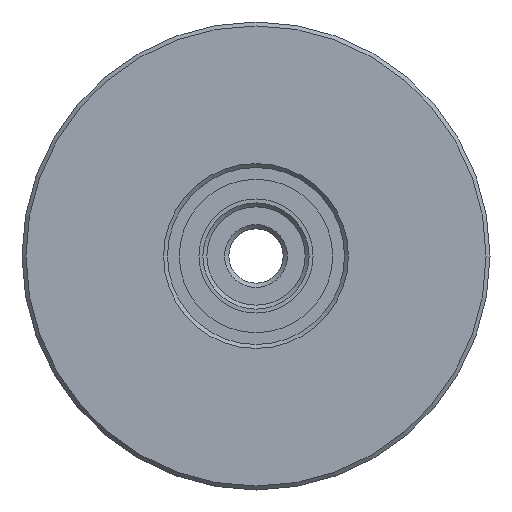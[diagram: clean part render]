
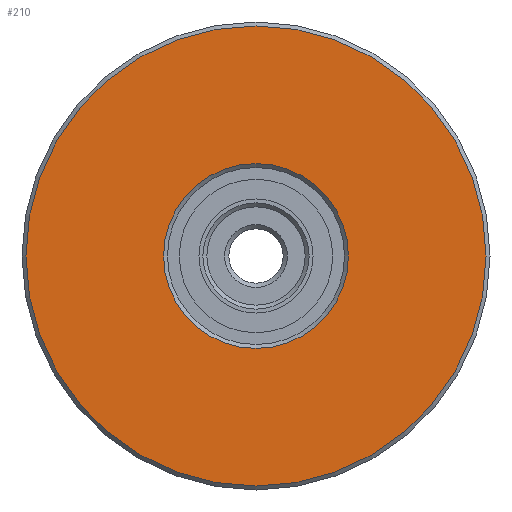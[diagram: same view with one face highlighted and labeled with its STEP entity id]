
A CAD part, left-side view. The second image highlights one B-rep face of the part: STEP entity #210.
In plain terms, the highlighted planar face has unit normal (-1, 0, 0) as drawn and (0, -1, 0) by its records, which use the part's own axes.
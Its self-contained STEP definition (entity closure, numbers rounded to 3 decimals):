
#210 = ADVANCED_FACE( '', ( #293, #294 ), #295, .T. );
#293 = FACE_OUTER_BOUND( '', #481, .T. );
#294 = FACE_BOUND( '', #482, .T. );
#295 = PLANE( '', #483 );
#481 = EDGE_LOOP( '', ( #676 ) );
#482 = EDGE_LOOP( '', ( #677 ) );
#483 = AXIS2_PLACEMENT_3D( '', #678, #679, #680 );
#676 = ORIENTED_EDGE( '', *, *, #1150, .T. );
#677 = ORIENTED_EDGE( '', *, *, #1149, .F. );
#678 = CARTESIAN_POINT( '', ( 23.5, 0., 0. ) );
#679 = DIRECTION( '', ( 0., -1., 0. ) );
#680 = DIRECTION( '', ( 0., 0., -1. ) );
#1149 = EDGE_CURVE( '', #1288, #1288, #1289, .T. );
#1150 = EDGE_CURVE( '', #1290, #1290, #1291, .T. );
#1288 = VERTEX_POINT( '', #1526 );
#1289 = CIRCLE( '', #1527, 23.5 );
#1290 = VERTEX_POINT( '', #1528 );
#1291 = CIRCLE( '', #1529, 58.5 );
#1526 = CARTESIAN_POINT( '', ( 0., 0., -23.5 ) );
#1527 = AXIS2_PLACEMENT_3D( '', #2016, #2017, #2018 );
#1528 = CARTESIAN_POINT( '', ( 0., 0., -58.5 ) );
#1529 = AXIS2_PLACEMENT_3D( '', #2019, #2020, #2021 );
#2016 = CARTESIAN_POINT( '', ( 0., 0., 0. ) );
#2017 = DIRECTION( '', ( 0., -1., 0. ) );
#2018 = DIRECTION( '', ( 0., 0., -1. ) );
#2019 = CARTESIAN_POINT( '', ( 0., 0., 0. ) );
#2020 = DIRECTION( '', ( 0., -1., 0. ) );
#2021 = DIRECTION( '', ( 0., 0., -1. ) );
